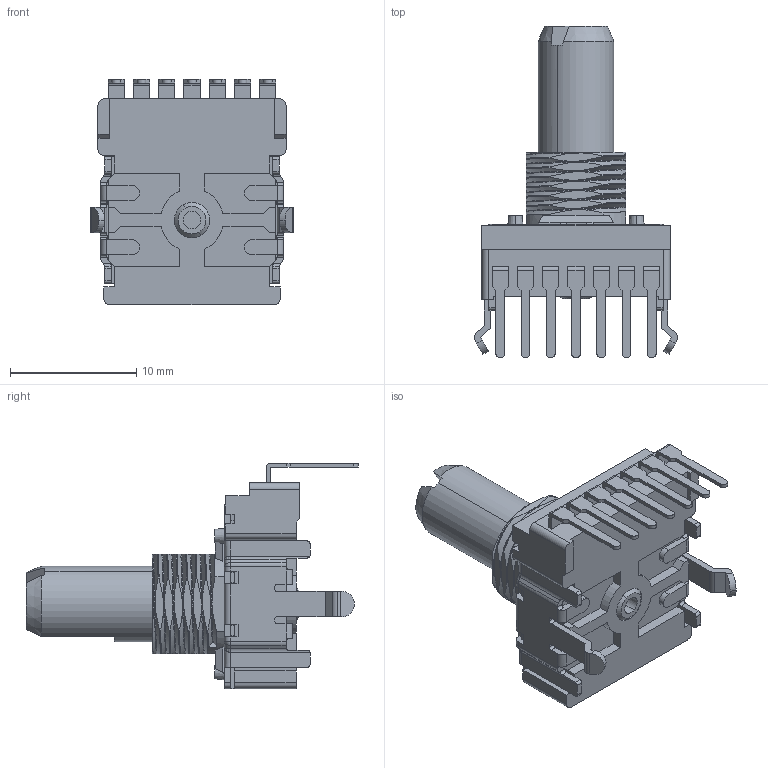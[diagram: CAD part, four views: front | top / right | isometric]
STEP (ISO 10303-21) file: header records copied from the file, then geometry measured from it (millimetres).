
FILE_DESCRIPTION (( 'STEP AP203' ), '1' );
FILE_NAME ('P140KH1-F15.STEP', '2026-09-15T18:35:21', ( '' ), ( '' ), 'SwSTEP 2.0', 'SolidWorks 2026', '' );
FILE_SCHEMA (( 'CONFIG_CONTROL_DESIGN' ));
Length unit declared in the file: millimetre
Products named in the file (8): spring_plate; KH1 bracket; Housing; 1-F15; KH-housing; bushing; V-terminal; P140KH1-F15
Assembly tree (13 placements, depth 3):
  P140KH1-F15
    KH-housing
      Housing
      V-terminal  x7
    1-F15
    spring_plate
    bushing
    KH1 bracket
Bounding box: 16.1 x 26.3 x 17.85 mm (x, y, z)
Volume: 1524.4 mm3; surface area: 3029.6 mm2
Topology: 12 solids, 12 shells, 774 faces, 2142 edges, 1384 vertices
Faces by surface type: plane 458, cylinder 228, bspline 65, cone 17, sphere 4, torus 2
Entity records: 36444 total; most frequent: CARTESIAN_POINT 18412, ORIENTED_EDGE 3836, DIRECTION 3227, EDGE_CURVE 1918, VERTEX_POINT 1240, VECTOR 1197, LINE 1197, AXIS2_PLACEMENT_3D 1015
